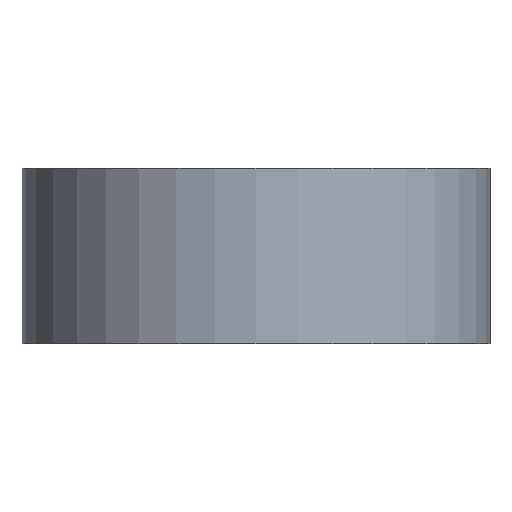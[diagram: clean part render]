
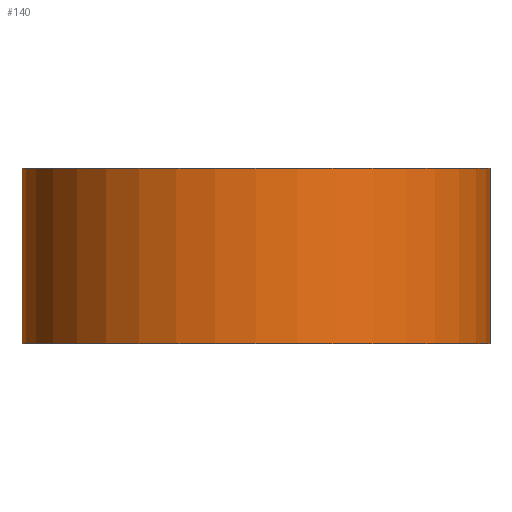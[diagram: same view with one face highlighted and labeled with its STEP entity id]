
A CAD part, front view. The second image highlights one B-rep face of the part: STEP entity #140.
In plain terms, the highlighted cylindrical face has radius 6.35 mm (diameter 12.7 mm), a full revolution.
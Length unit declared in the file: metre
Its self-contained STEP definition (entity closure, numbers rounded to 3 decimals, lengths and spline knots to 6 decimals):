
#32=ORIENTED_EDGE('',*,*,#50,.F.);
#33=ORIENTED_EDGE('',*,*,#51,.T.);
#50=EDGE_CURVE('',#62,#62,#74,.T.);
#51=EDGE_CURVE('',#63,#63,#75,.T.);
#62=VERTEX_POINT('',#266);
#63=VERTEX_POINT('',#269);
#74=CIRCLE('',#184,0.00635);
#75=CIRCLE('',#186,0.00635);
#92=EDGE_LOOP('',(#32));
#93=EDGE_LOOP('',(#33));
#116=FACE_BOUND('',#92,.T.);
#117=FACE_BOUND('',#93,.T.);
#131=CYLINDRICAL_SURFACE('',#185,0.00635);
#140=ADVANCED_FACE('',(#116,#117),#131,.T.);
#184=AXIS2_PLACEMENT_3D('',#265,#222,#223);
#185=AXIS2_PLACEMENT_3D('',#267,#224,#225);
#186=AXIS2_PLACEMENT_3D('',#268,#226,#227);
#222=DIRECTION('',(0.,0.,-1.));
#223=DIRECTION('',(-1.,0.,0.));
#224=DIRECTION('',(0.,0.,-1.));
#225=DIRECTION('',(-1.,0.,0.));
#226=DIRECTION('',(0.,0.,-1.));
#227=DIRECTION('',(-1.,0.,0.));
#265=CARTESIAN_POINT('',(0.,0.,0.));
#266=CARTESIAN_POINT('',(-0.00635,0.,0.));
#267=CARTESIAN_POINT('',(0.,0.,0.));
#268=CARTESIAN_POINT('',(0.,0.,0.004763));
#269=CARTESIAN_POINT('',(-0.00635,0.,0.004763));
